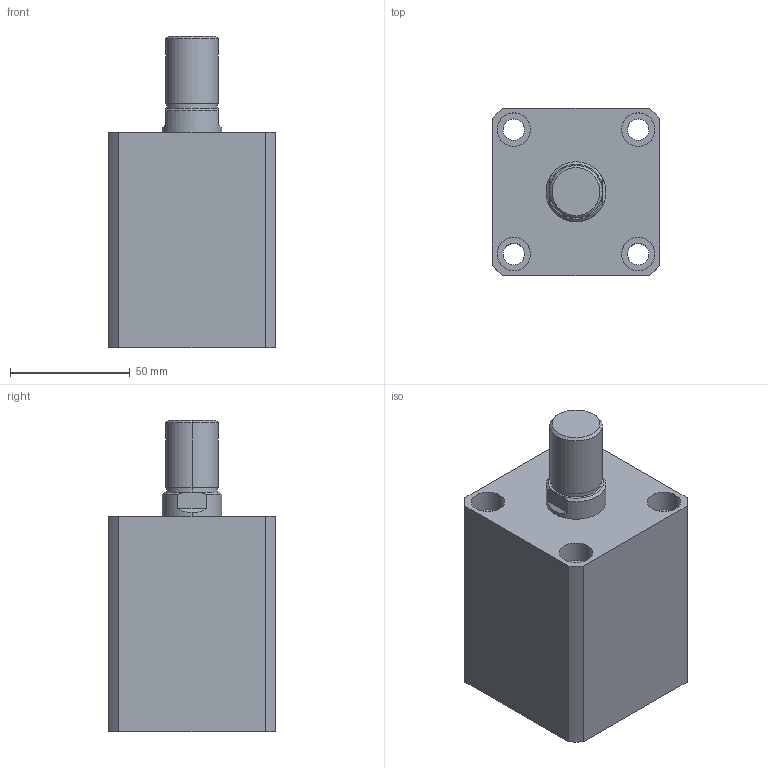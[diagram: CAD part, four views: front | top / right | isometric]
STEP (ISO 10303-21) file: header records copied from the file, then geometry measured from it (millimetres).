
FILE_DESCRIPTION (( 'STEP AP203' ), '1' );
FILE_NAME ('HTB-SDMB40-35W.STEP', '2019-10-09T01:52:15', ( '微软用户' ), ( '微软中国' ), 'SwSTEP 2.0', 'SolidWorks 2012', '' );
FILE_SCHEMA (( 'CONFIG_CONTROL_DESIGN' ));
Length unit declared in the file: millimetre
Products named in the file (3): HTB-SDMB40-35W; HTB-SDMB40-35W活塞杆; HTB-SDMB40-35掛极
Assembly tree (2 placements, depth 2):
  HTB-SDMB40-35W
    HTB-SDMB40-35掛极
    HTB-SDMB40-35W活塞杆
Bounding box: 70 x 70 x 130 mm (x, y, z)
Volume: 396806.2 mm3; surface area: 68009 mm2
Topology: 2 solids, 2 shells, 141 faces, 337 edges, 222 vertices
Faces by surface type: plane 67, cylinder 48, bspline 16, torus 6, cone 4
Entity records: 5180 total; most frequent: CARTESIAN_POINT 1597, ORIENTED_EDGE 674, DIRECTION 669, EDGE_CURVE 337, AXIS2_PLACEMENT_3D 242, VERTEX_POINT 222, LINE 185, VECTOR 185
